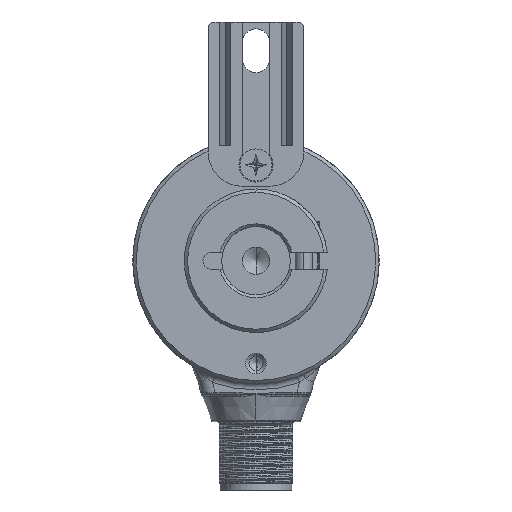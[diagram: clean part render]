
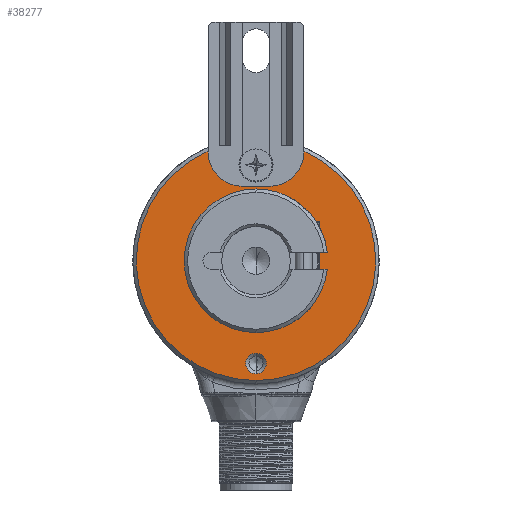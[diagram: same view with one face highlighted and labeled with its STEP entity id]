
A CAD part, left-side view. The second image highlights one B-rep face of the part: STEP entity #38277.
In plain terms, the highlighted planar face has unit normal (-1, 0, 0).
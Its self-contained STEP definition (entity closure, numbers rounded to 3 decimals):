
#466 = DIRECTION ( 'NONE',  ( -1., 0., 0. ) ) ;
#1064 = DIRECTION ( 'NONE',  ( 0., 0., 1. ) ) ;
#1419 = CARTESIAN_POINT ( 'NONE',  ( 0., 7., 16. ) ) ;
#2747 = ORIENTED_EDGE ( 'NONE', *, *, #21235, .F. ) ;
#3087 = VERTEX_POINT ( 'NONE', #40244 ) ;
#4522 = DIRECTION ( 'NONE',  ( -1., 0., 0. ) ) ;
#4537 = CARTESIAN_POINT ( 'NONE',  ( 0., -2., 11. ) ) ;
#4741 = AXIS2_PLACEMENT_3D ( 'NONE', #38600, #18822, #41926 ) ;
#4775 = AXIS2_PLACEMENT_3D ( 'NONE', #12470, #35565, #15768 ) ;
#5659 = FACE_BOUND ( 'NONE', #14029, .T. ) ;
#5855 = LINE ( 'NONE', #4537, #23401 ) ;
#6465 = AXIS2_PLACEMENT_3D ( 'NONE', #31521, #11773, #34863 ) ;
#7610 = VERTEX_POINT ( 'NONE', #37343 ) ;
#8041 = ORIENTED_EDGE ( 'NONE', *, *, #18084, .T. ) ;
#8312 = ORIENTED_EDGE ( 'NONE', *, *, #13174, .F. ) ;
#8383 = ORIENTED_EDGE ( 'NONE', *, *, #33267, .F. ) ;
#8923 = CARTESIAN_POINT ( 'NONE',  ( 0., 7., 16.039 ) ) ;
#8994 = ORIENTED_EDGE ( 'NONE', *, *, #22828, .F. ) ;
#9735 = VERTEX_POINT ( 'NONE', #10720 ) ;
#10276 = CARTESIAN_POINT ( 'NONE',  ( 0., 9.25, 0. ) ) ;
#10518 = CARTESIAN_POINT ( 'NONE',  ( 0., -7., 16.039 ) ) ;
#10720 = CARTESIAN_POINT ( 'NONE',  ( 0., 0., 9.35 ) ) ;
#11773 = DIRECTION ( 'NONE',  ( 1., 0., 0. ) ) ;
#12398 = VERTEX_POINT ( 'NONE', #10518 ) ;
#12470 = CARTESIAN_POINT ( 'NONE',  ( 0., -2., 16. ) ) ;
#12501 = VERTEX_POINT ( 'NONE', #40531 ) ;
#13174 = EDGE_CURVE ( 'NONE', #12501, #38663, #25612, .T. ) ;
#13394 = FACE_OUTER_BOUND ( 'NONE', #20491, .T. ) ;
#13466 = VERTEX_POINT ( 'NONE', #18630 ) ;
#13879 = PLANE ( 'NONE',  #17230 ) ;
#13950 = ORIENTED_EDGE ( 'NONE', *, *, #38001, .F. ) ;
#14029 = EDGE_LOOP ( 'NONE', ( #16944, #8041 ) ) ;
#14110 = EDGE_CURVE ( 'NONE', #33421, #12398, #29722, .T. ) ;
#15042 = AXIS2_PLACEMENT_3D ( 'NONE', #24285, #4522, #27602 ) ;
#15371 = AXIS2_PLACEMENT_3D ( 'NONE', #35538, #15739, #38843 ) ;
#15653 = LINE ( 'NONE', #17524, #32192 ) ;
#15739 = DIRECTION ( 'NONE',  ( -1., 0., 0. ) ) ;
#15744 = CIRCLE ( 'NONE', #6465, 9.35 ) ;
#15768 = DIRECTION ( 'NONE',  ( 0., 0., 1. ) ) ;
#16480 = LINE ( 'NONE', #1419, #39730 ) ;
#16495 = AXIS2_PLACEMENT_3D ( 'NONE', #20234, #466, #23553 ) ;
#16944 = ORIENTED_EDGE ( 'NONE', *, *, #31053, .T. ) ;
#17086 = DIRECTION ( 'NONE',  ( 1., 0., 0. ) ) ;
#17230 = AXIS2_PLACEMENT_3D ( 'NONE', #10276, #40580, #20785 ) ;
#17524 = CARTESIAN_POINT ( 'NONE',  ( 0., -7., 21. ) ) ;
#17818 = AXIS2_PLACEMENT_3D ( 'NONE', #18862, #41962, #22156 ) ;
#18084 = EDGE_CURVE ( 'NONE', #9735, #22551, #30138, .T. ) ;
#18630 = CARTESIAN_POINT ( 'NONE',  ( 0., 7., 16. ) ) ;
#18822 = DIRECTION ( 'NONE',  ( -1., 0., 0. ) ) ;
#18831 = CARTESIAN_POINT ( 'NONE',  ( 0., 0., -9.35 ) ) ;
#18862 = CARTESIAN_POINT ( 'NONE',  ( 0., 0., 0. ) ) ;
#20234 = CARTESIAN_POINT ( 'NONE',  ( 0., 0., -15. ) ) ;
#20491 = EDGE_LOOP ( 'NONE', ( #2747, #21978, #22854, #29617, #8383, #13950, #37515 ) ) ;
#20785 = DIRECTION ( 'NONE',  ( 0., 0., -1. ) ) ;
#21235 = EDGE_CURVE ( 'NONE', #13466, #3087, #33637, .T. ) ;
#21978 = ORIENTED_EDGE ( 'NONE', *, *, #23774, .F. ) ;
#22156 = DIRECTION ( 'NONE',  ( 0., 0., -1. ) ) ;
#22551 = VERTEX_POINT ( 'NONE', #18831 ) ;
#22828 = EDGE_CURVE ( 'NONE', #38663, #12501, #38729, .T. ) ;
#22854 = ORIENTED_EDGE ( 'NONE', *, *, #28508, .T. ) ;
#23401 = VECTOR ( 'NONE', #27614, 1000. ) ;
#23517 = CIRCLE ( 'NONE', #4741, 17.5 ) ;
#23553 = DIRECTION ( 'NONE',  ( 0., 0., 1. ) ) ;
#23774 = EDGE_CURVE ( 'NONE', #37275, #13466, #16480, .T. ) ;
#24285 = CARTESIAN_POINT ( 'NONE',  ( 0., 0., -15. ) ) ;
#24508 = DIRECTION ( 'NONE',  ( 0., 0., -1. ) ) ;
#24969 = AXIS2_PLACEMENT_3D ( 'NONE', #36877, #17086, #40201 ) ;
#25612 = CIRCLE ( 'NONE', #15042, 1.5 ) ;
#25629 = CARTESIAN_POINT ( 'NONE',  ( 0., -2., 11. ) ) ;
#27602 = DIRECTION ( 'NONE',  ( 0., 0., 1. ) ) ;
#27614 = DIRECTION ( 'NONE',  ( 0., -1., 0. ) ) ;
#27896 = CARTESIAN_POINT ( 'NONE',  ( 0., 0., -17.5 ) ) ;
#28508 = EDGE_CURVE ( 'NONE', #37275, #33421, #23517, .T. ) ;
#29617 = ORIENTED_EDGE ( 'NONE', *, *, #14110, .T. ) ;
#29722 = CIRCLE ( 'NONE', #17818, 17.5 ) ;
#29744 = CARTESIAN_POINT ( 'NONE',  ( 0., 0., -13.5 ) ) ;
#30138 = CIRCLE ( 'NONE', #24969, 9.35 ) ;
#31053 = EDGE_CURVE ( 'NONE', #22551, #9735, #15744, .T. ) ;
#31521 = CARTESIAN_POINT ( 'NONE',  ( 0., 0., 0. ) ) ;
#32192 = VECTOR ( 'NONE', #1064, 1000. ) ;
#33267 = EDGE_CURVE ( 'NONE', #7610, #12398, #15653, .T. ) ;
#33288 = EDGE_CURVE ( 'NONE', #3087, #37395, #5855, .T. ) ;
#33421 = VERTEX_POINT ( 'NONE', #27896 ) ;
#33637 = CIRCLE ( 'NONE', #15371, 5. ) ;
#34863 = DIRECTION ( 'NONE',  ( 0., 0., -1. ) ) ;
#35538 = CARTESIAN_POINT ( 'NONE',  ( 0., 2., 16. ) ) ;
#35565 = DIRECTION ( 'NONE',  ( -1., 0., 0. ) ) ;
#36877 = CARTESIAN_POINT ( 'NONE',  ( 0., 0., 0. ) ) ;
#37185 = CIRCLE ( 'NONE', #4775, 5. ) ;
#37275 = VERTEX_POINT ( 'NONE', #8923 ) ;
#37343 = CARTESIAN_POINT ( 'NONE',  ( 0., -7., 16. ) ) ;
#37395 = VERTEX_POINT ( 'NONE', #25629 ) ;
#37515 = ORIENTED_EDGE ( 'NONE', *, *, #33288, .F. ) ;
#38001 = EDGE_CURVE ( 'NONE', #37395, #7610, #37185, .T. ) ;
#38277 = ADVANCED_FACE ( 'NONE', ( #5659, #39744, #13394 ), #13879, .F. ) ;
#38588 = EDGE_LOOP ( 'NONE', ( #8994, #8312 ) ) ;
#38600 = CARTESIAN_POINT ( 'NONE',  ( 0., 0., 0. ) ) ;
#38663 = VERTEX_POINT ( 'NONE', #29744 ) ;
#38729 = CIRCLE ( 'NONE', #16495, 1.5 ) ;
#38843 = DIRECTION ( 'NONE',  ( 0., 0., 1. ) ) ;
#39730 = VECTOR ( 'NONE', #24508, 1000. ) ;
#39744 = FACE_BOUND ( 'NONE', #38588, .T. ) ;
#40201 = DIRECTION ( 'NONE',  ( 0., 0., -1. ) ) ;
#40244 = CARTESIAN_POINT ( 'NONE',  ( 0., 2., 11. ) ) ;
#40531 = CARTESIAN_POINT ( 'NONE',  ( 0., 0., -16.5 ) ) ;
#40580 = DIRECTION ( 'NONE',  ( 1., 0., 0. ) ) ;
#41926 = DIRECTION ( 'NONE',  ( 0., 0., -1. ) ) ;
#41962 = DIRECTION ( 'NONE',  ( -1., 0., 0. ) ) ;
